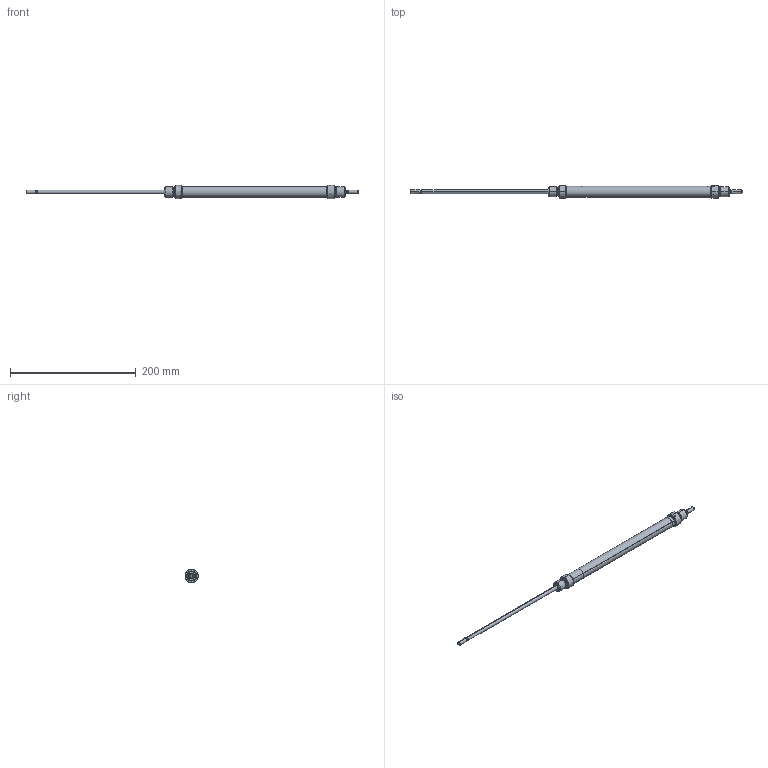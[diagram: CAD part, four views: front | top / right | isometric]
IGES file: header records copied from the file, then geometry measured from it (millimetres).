
Start section: SolidWorks IGES file using analytic representation for surfaces
Global section: file name: K:\Disegni Esecutivi\Cilindri\2_DISEGNI_cilindri_in_produzione\2_Minicilindri ISO 6432\1Minisolidworks\4_minicilindri iso 6432_16 solidworks\16cplx3d\ML016\ML016_PIENO\ML0160200A.igs; native system: SolidWorks 2011; preprocessor: SolidWorks 2011; author: cad01; date: 110505.180846; units: millimetre
Bounding box: 529 x 20 x 21 mm (x, y, z)
Surface area: 36072 mm2 (no closed solid volume)
Topology: 0 solids, 0 shells, 304 faces, 3976 edges, 3951 vertices
Faces by surface type: revolution 198, bspline 106
